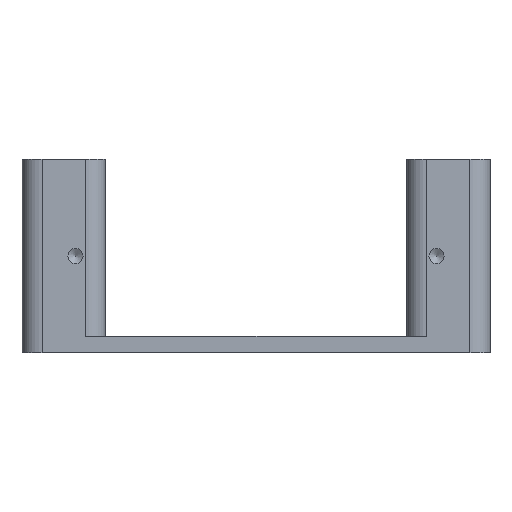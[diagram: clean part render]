
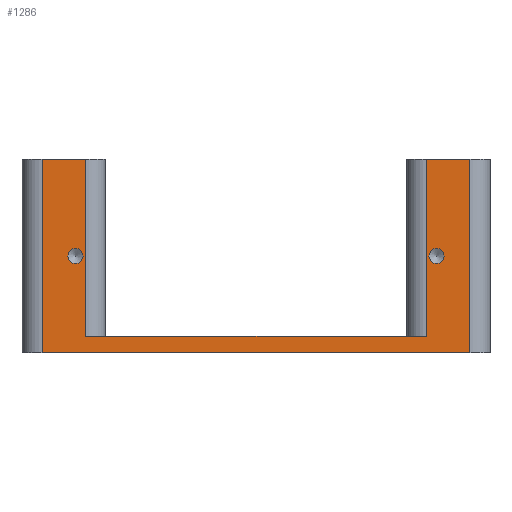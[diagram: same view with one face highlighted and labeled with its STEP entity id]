
A CAD part, left-side view. The second image highlights one B-rep face of the part: STEP entity #1286.
In plain terms, the highlighted planar face has unit normal (-1, 0, 0).
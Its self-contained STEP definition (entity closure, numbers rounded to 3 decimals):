
#33=FACE_BOUND('',#212,.T.);
#34=FACE_BOUND('',#213,.T.);
#50=PLANE('',#1454);
#130=FACE_OUTER_BOUND('',#211,.T.);
#211=EDGE_LOOP('',(#1111,#1112,#1113,#1114,#1115,#1116,#1117,#1118));
#212=EDGE_LOOP('',(#1119,#1120));
#213=EDGE_LOOP('',(#1121,#1122));
#258=LINE('',#1960,#365);
#284=LINE('',#2067,#391);
#306=LINE('',#2169,#413);
#312=LINE('',#2195,#419);
#316=LINE('',#2210,#423);
#322=LINE('',#2221,#429);
#323=LINE('',#2223,#430);
#324=LINE('',#2224,#431);
#365=VECTOR('',#1549,10.);
#391=VECTOR('',#1653,10.);
#413=VECTOR('',#1747,10.);
#419=VECTOR('',#1773,10.);
#423=VECTOR('',#1787,10.);
#429=VECTOR('',#1803,10.);
#430=VECTOR('',#1806,10.);
#431=VECTOR('',#1807,10.);
#458=CIRCLE('',#1339,2.25);
#459=CIRCLE('',#1340,2.25);
#462=CIRCLE('',#1345,2.25);
#463=CIRCLE('',#1346,2.25);
#544=VERTEX_POINT('',#1897);
#545=VERTEX_POINT('',#1898);
#549=VERTEX_POINT('',#1910);
#550=VERTEX_POINT('',#1911);
#570=VERTEX_POINT('',#1957);
#571=VERTEX_POINT('',#1959);
#612=VERTEX_POINT('',#2064);
#613=VERTEX_POINT('',#2066);
#656=VERTEX_POINT('',#2166);
#657=VERTEX_POINT('',#2168);
#666=VERTEX_POINT('',#2192);
#667=VERTEX_POINT('',#2194);
#677=EDGE_CURVE('',#544,#545,#458,.T.);
#678=EDGE_CURVE('',#545,#544,#459,.T.);
#683=EDGE_CURVE('',#549,#550,#462,.T.);
#684=EDGE_CURVE('',#550,#549,#463,.T.);
#707=EDGE_CURVE('',#571,#570,#258,.T.);
#761=EDGE_CURVE('',#612,#613,#284,.T.);
#812=EDGE_CURVE('',#656,#657,#306,.T.);
#825=EDGE_CURVE('',#666,#667,#312,.T.);
#833=EDGE_CURVE('',#571,#666,#316,.T.);
#839=EDGE_CURVE('',#667,#612,#322,.T.);
#840=EDGE_CURVE('',#657,#570,#323,.T.);
#841=EDGE_CURVE('',#613,#656,#324,.T.);
#1111=ORIENTED_EDGE('',*,*,#833,.F.);
#1112=ORIENTED_EDGE('',*,*,#707,.T.);
#1113=ORIENTED_EDGE('',*,*,#840,.F.);
#1114=ORIENTED_EDGE('',*,*,#812,.F.);
#1115=ORIENTED_EDGE('',*,*,#841,.F.);
#1116=ORIENTED_EDGE('',*,*,#761,.F.);
#1117=ORIENTED_EDGE('',*,*,#839,.F.);
#1118=ORIENTED_EDGE('',*,*,#825,.F.);
#1119=ORIENTED_EDGE('',*,*,#677,.T.);
#1120=ORIENTED_EDGE('',*,*,#678,.T.);
#1121=ORIENTED_EDGE('',*,*,#683,.T.);
#1122=ORIENTED_EDGE('',*,*,#684,.T.);
#1286=ADVANCED_FACE('',(#130,#33,#34),#50,.T.);
#1339=AXIS2_PLACEMENT_3D('',#1899,#1494,#1495);
#1340=AXIS2_PLACEMENT_3D('',#1900,#1496,#1497);
#1345=AXIS2_PLACEMENT_3D('',#1912,#1508,#1509);
#1346=AXIS2_PLACEMENT_3D('',#1913,#1510,#1511);
#1454=AXIS2_PLACEMENT_3D('',#2222,#1804,#1805);
#1494=DIRECTION('center_axis',(1.,0.,0.));
#1495=DIRECTION('ref_axis',(0.,0.,1.));
#1496=DIRECTION('center_axis',(1.,0.,0.));
#1497=DIRECTION('ref_axis',(0.,0.,1.));
#1508=DIRECTION('center_axis',(1.,0.,0.));
#1509=DIRECTION('ref_axis',(0.,0.,1.));
#1510=DIRECTION('center_axis',(1.,0.,0.));
#1511=DIRECTION('ref_axis',(0.,0.,1.));
#1549=DIRECTION('',(0.,-1.,0.));
#1653=DIRECTION('',(0.,-1.,0.));
#1747=DIRECTION('',(0.,-1.,0.));
#1773=DIRECTION('',(0.,-1.,0.));
#1787=DIRECTION('',(0.,0.,1.));
#1803=DIRECTION('',(0.,0.,-1.));
#1804=DIRECTION('center_axis',(-1.,0.,0.));
#1805=DIRECTION('ref_axis',(0.,-1.,0.));
#1806=DIRECTION('',(0.,0.,-1.));
#1807=DIRECTION('',(0.,0.,1.));
#1897=CARTESIAN_POINT('',(0.,124.,31.25));
#1898=CARTESIAN_POINT('',(0.,124.,26.75));
#1899=CARTESIAN_POINT('Origin',(0.,124.,29.));
#1900=CARTESIAN_POINT('Origin',(0.,124.,29.));
#1910=CARTESIAN_POINT('',(0.,16.,31.25));
#1911=CARTESIAN_POINT('',(0.,16.,26.75));
#1912=CARTESIAN_POINT('Origin',(0.,16.,29.));
#1913=CARTESIAN_POINT('Origin',(0.,16.,29.));
#1957=CARTESIAN_POINT('',(0.,6.,0.));
#1959=CARTESIAN_POINT('',(0.,134.,0.));
#1960=CARTESIAN_POINT('',(0.,140.,0.));
#2064=CARTESIAN_POINT('',(0.,121.,5.));
#2066=CARTESIAN_POINT('',(0.,19.,5.));
#2067=CARTESIAN_POINT('',(0.,140.,5.));
#2166=CARTESIAN_POINT('',(0.,19.,58.));
#2168=CARTESIAN_POINT('',(0.,6.,58.));
#2169=CARTESIAN_POINT('',(0.,140.,58.));
#2192=CARTESIAN_POINT('',(0.,134.,58.));
#2194=CARTESIAN_POINT('',(0.,121.,58.));
#2195=CARTESIAN_POINT('',(0.,140.,58.));
#2210=CARTESIAN_POINT('',(0.,134.,0.));
#2221=CARTESIAN_POINT('',(0.,121.,2.5));
#2222=CARTESIAN_POINT('Origin',(0.,140.,0.));
#2223=CARTESIAN_POINT('',(0.,6.,0.));
#2224=CARTESIAN_POINT('',(0.,19.,2.5));
